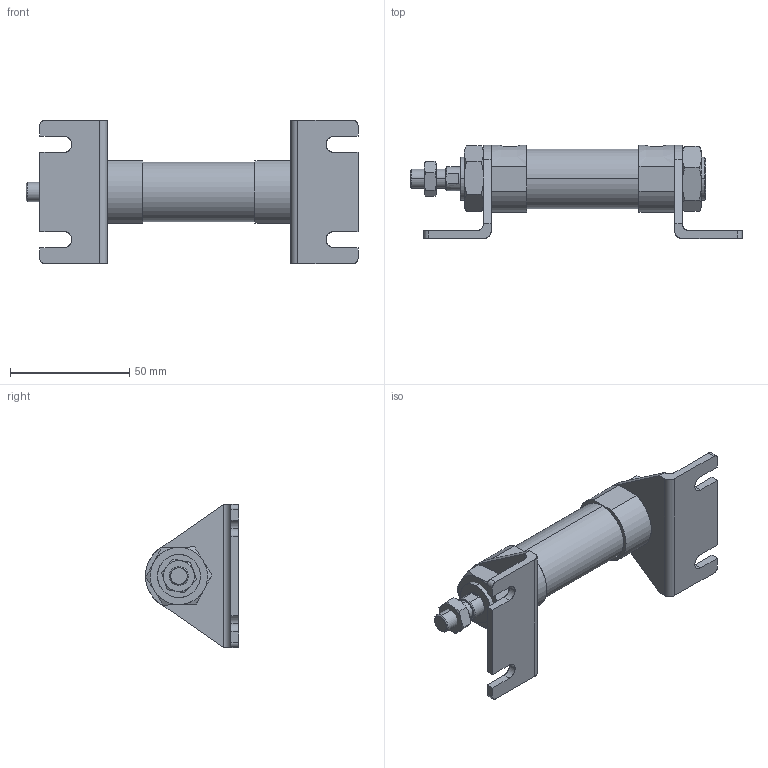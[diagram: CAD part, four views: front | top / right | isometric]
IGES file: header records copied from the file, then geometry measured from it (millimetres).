
Start section: SolidWorks IGES file using analytic representation for surfaces
Global section: file name: C:\Users\Toshiba\Desktop\J#2-20-15-L.IGS; native system: SolidWorks 2014; preprocessor: SolidWorks 2014; author: Toshiba; date: 160310.084757; units: millimetre
Bounding box: 139.2 x 39 x 60 mm (x, y, z)
Surface area: 26461.6 mm2 (no closed solid volume)
Topology: 0 solids, 0 shells, 168 faces, 2672 edges, 2672 vertices
Faces by surface type: bspline 110, revolution 58
